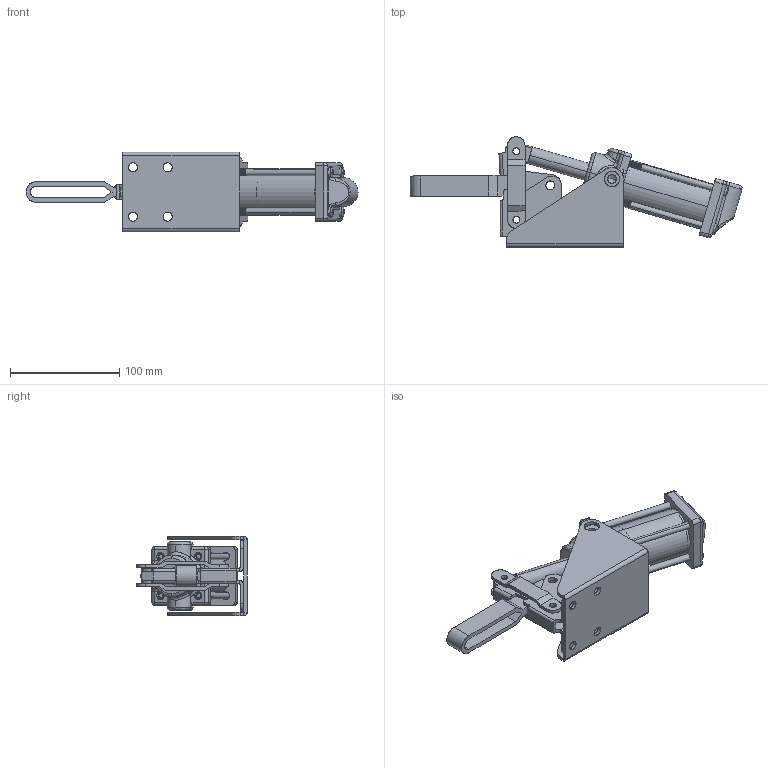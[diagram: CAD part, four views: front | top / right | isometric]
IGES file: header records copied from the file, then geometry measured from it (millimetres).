
Start section: SolidWorks IGES file using analytic representation for surfaces
Global section: file name: D:\GH Files\GH-SW-FILES\GH-A\12265A,12275A\12265A.IGS; native system: SolidWorks 2006 by SolidWorks Corporation; preprocessor: SolidWorks 2006 by SolidWorks Corporation; author: Administrator; date: 060526.120107; units: millimetre
Bounding box: 304.36 x 101.33 x 73 mm (x, y, z)
Surface area: 142766.5 mm2 (no closed solid volume)
Topology: 0 solids, 0 shells, 971 faces, 9885 edges, 9868 vertices
Faces by surface type: revolution 727, bspline 244
